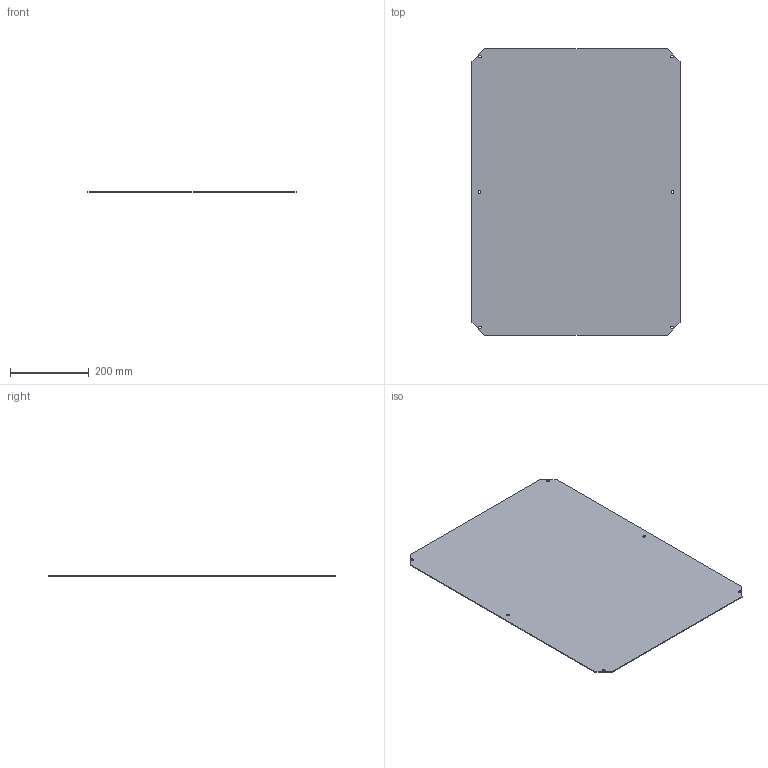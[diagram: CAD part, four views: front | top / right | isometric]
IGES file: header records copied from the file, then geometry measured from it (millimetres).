
Start section: SolidWorks IGES file using analytic representation for surfaces
Global section: file name: \\FIBOXPL-DCS\users\Techniczni Polska\PawelT\ARCA\Plates\do katalogu\MPS 8060.IGS; native system: SolidWorks 2014; preprocessor: SolidWorks 2014; author: PawelT; date: 150521.113005; units: millimetre
Bounding box: 530 x 730 x 2 mm (x, y, z)
Surface area: 774447.1 mm2 (no closed solid volume)
Topology: 0 solids, 0 shells, 22 faces, 288 edges, 288 vertices
Faces by surface type: revolution 12, bspline 10
